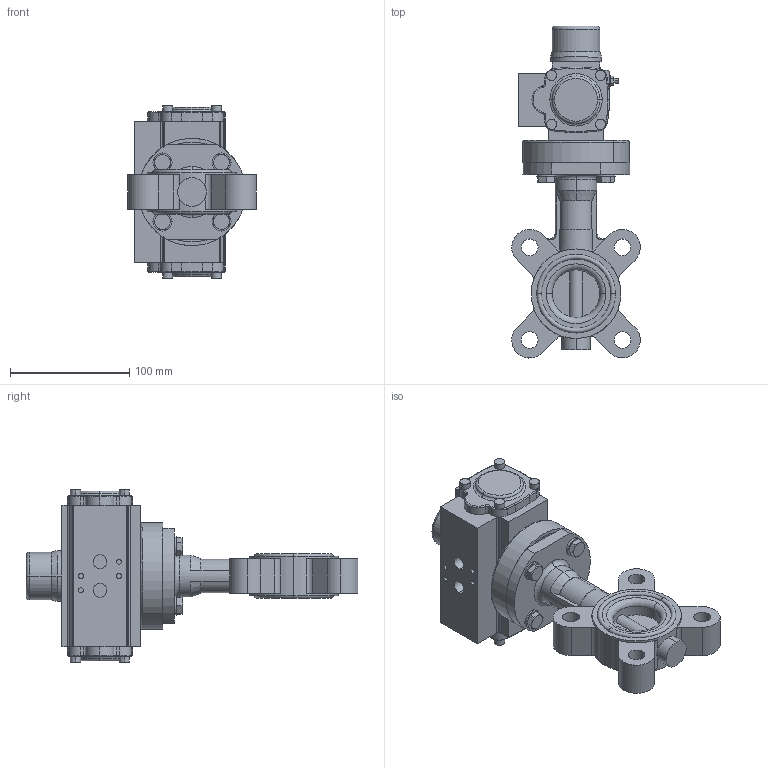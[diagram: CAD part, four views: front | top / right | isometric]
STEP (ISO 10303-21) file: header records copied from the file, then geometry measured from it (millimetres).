
FILE_DESCRIPTION (( 'STEP AP214' ), '1' );
FILE_NAME ('67708.step', '2020-10-26T07:27:40', ( '' ), ( '' ), 'SwSTEP 2.0', 'SolidWorks 2019', '' );
FILE_SCHEMA (( 'AUTOMOTIVE_DESIGN' ));
Length unit declared in the file: millimetre
Products named in the file (10): Achtkantreduktion 14-11 mm; 67708; TL20-0040_M01; 67335_15x15x2 - L=18; 6kt-Mu DIN 934_M8; U-Scheibe DIN 125 A_M8; DA0020-V14_01; Zyl-Schr In-6kt DIN 912_M6x16; Flanschadapter F07-F05; 6kt-Schr DIN 933_M8x30
Assembly tree (21 placements, depth 2):
  67708
    TL20-0040_M01
    Flanschadapter F07-F05
    Achtkantreduktion 14-11 mm
    DA0020-V14_01
    6kt-Schr DIN 933_M8x30  x4
    U-Scheibe DIN 125 A_M8  x4
    67335_15x15x2 - L=18
    6kt-Mu DIN 934_M8  x4
    Zyl-Schr In-6kt DIN 912_M6x16  x4
Bounding box: 107.72 x 278.37 x 144.8 mm (x, y, z)
Volume: 991259.3 mm3; surface area: 163070.7 mm2
Topology: 22 solids, 22 shells, 950 faces, 2342 edges, 1467 vertices
Faces by surface type: plane 439, cylinder 325, cone 108, torus 58, bspline 20
Entity records: 25443 total; most frequent: CARTESIAN_POINT 5138, DIRECTION 3963, ORIENTED_EDGE 3616, EDGE_CURVE 1808, AXIS2_PLACEMENT_3D 1533, VERTEX_POINT 1164, LINE 897, VECTOR 897
